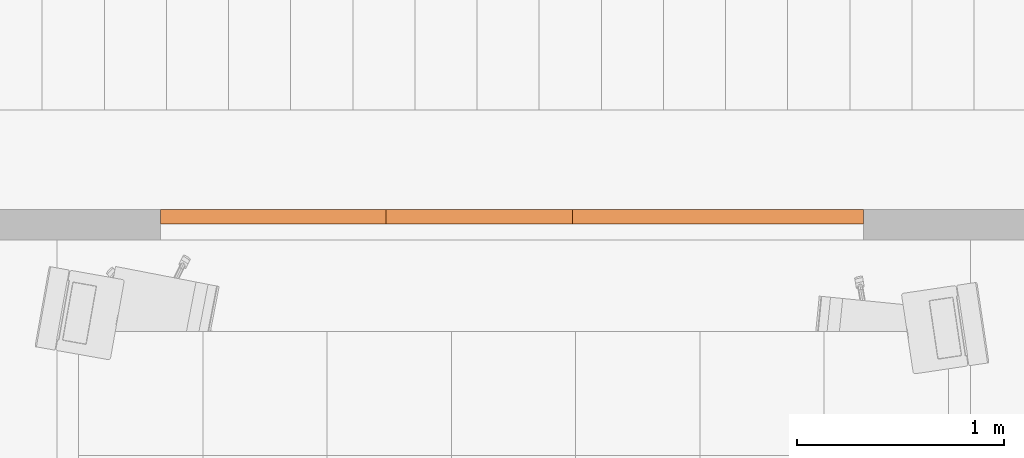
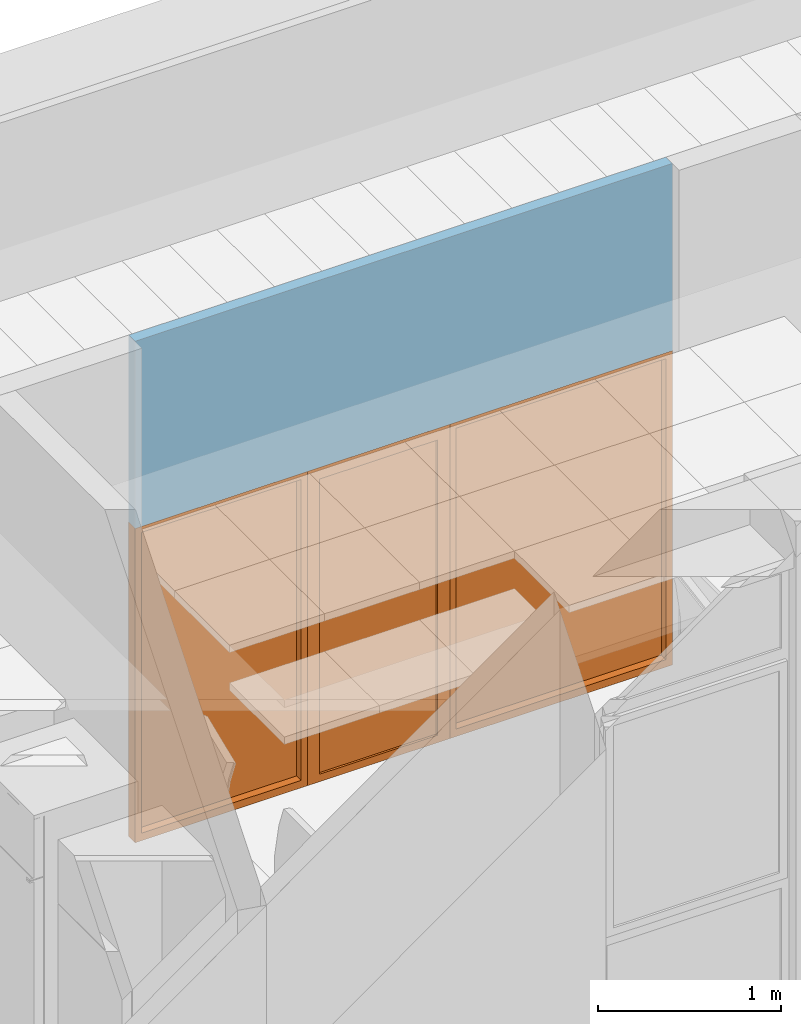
# One storey, part 56 of 68: 3 proxies, 3 openings, plus 1 element that does not belong to this part.
"""IFC2X3 building model written with IfcOpenShell, lengths in millimetres."""

from ifc_helpers import new_model, entity, si_unit, converted_unit, derived_unit, money_unit, direction, frame, origin_with_axes, origin_2d_with_axis, place, context, subcontext, project, spatial, polyline, rectangle, outline, extrude, open_shell, faceted_brep, surface_model, material, layer, layer_set, layer_usage, type_object, element, fill, save


model = new_model("IFC2X3")

# Units and contexts
model_context = context("Model", 3, precision=0.01, world=origin_with_axes(), true_north=direction((0.0, 1.0)))
body_context = subcontext(model_context, "Body", "Model", "MODEL_VIEW")
ifc_project = project(units=[si_unit("LENGTHUNIT", "METRE", prefix="MILLI"), si_unit("AREAUNIT", "SQUARE_METRE"), si_unit("VOLUMEUNIT", "CUBIC_METRE"), converted_unit("PLANEANGLEUNIT", "DEGREE", entity("IfcPlaneAngleMeasure", 0.0174532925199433), si_unit("PLANEANGLEUNIT", "RADIAN"), dimensions=[0, 0, 0, 0, 0, 0, 0]), money_unit("USD"), converted_unit("TIMEUNIT", "Year", entity("IfcTimeMeasure", 31557600.0), si_unit("TIMEUNIT", "SECOND"), dimensions=[0, 0, 1, 0, 0, 0, 0]), si_unit("MASSUNIT", "GRAM", prefix="KILO"), si_unit("THERMODYNAMICTEMPERATUREUNIT", "DEGREE_CELSIUS"), si_unit("LUMINOUSINTENSITYUNIT", "LUMEN"), si_unit("ENERGYUNIT", "JOULE", prefix="MEGA"), derived_unit("THERMALCONDUCTANCEUNIT", [(si_unit("POWERUNIT", "WATT"), 1), (si_unit("LENGTHUNIT", "METRE"), -1), (si_unit("THERMODYNAMICTEMPERATUREUNIT", "KELVIN"), -1)]), derived_unit("SPECIFICHEATCAPACITYUNIT", [(si_unit("ENERGYUNIT", "JOULE"), 1), (si_unit("MASSUNIT", "GRAM", prefix="KILO"), -1), (si_unit("THERMODYNAMICTEMPERATUREUNIT", "KELVIN"), -1)]), derived_unit("MASSDENSITYUNIT", [(si_unit("MASSUNIT", "GRAM", prefix="KILO"), 1), (si_unit("VOLUMEUNIT", "CUBIC_METRE"), -1)])], contexts=[model_context])

# Site, building, storey
site_placement = place(None, origin_with_axes())
site = spatial("IfcSite", under=ifc_project, at=site_placement, Name="Sitio", CompositionType="ELEMENT")
building_placement = place(site_placement, origin_with_axes())
building = spatial("IfcBuilding", under=site, at=building_placement, Name="Construcción", CompositionType="ELEMENT")
storey_placement = place(building_placement, origin_with_axes())
storey = spatial("IfcBuildingStorey", under=building, at=storey_placement, Name="PLANTA 1ª", CompositionType="ELEMENT", Elevation=0.0)

# Wall, openings, proxies
ifc_material_1 = material(Name="Panel de Yeso Laminado")
ifc_layer_1 = layer(ifc_material_1, 5.0, ventilated="UNKNOWN")
ifc_material_2 = material(Name="ARQ_AI033_Aillament_Llana_De_Roca")
ifc_layer_2 = layer(ifc_material_2, 60.0, ventilated="UNKNOWN")
ifc_layer_3 = layer(ifc_material_1, 5.0, ventilated="UNKNOWN")
ifc_layer_set = layer_set([ifc_layer_1, ifc_layer_2, ifc_layer_3], Name="CR- MAMPARA")
ifc_layer_usage = layer_usage(ifc_layer_set, "AXIS2", "POSITIVE", 0.0)
wall_type = type_object("IfcWallType", Name="CR- MAMPARA 70", PredefinedType="NOTDEFINED")
wall_placement = place(storey_placement, frame((-11795.8481802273, 1700.853055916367, 0.0), z_axis=(0.0, 0.0, 1.0), x_axis=(-1.0, 0.0, 0.0)))
wall = element("IfcWallStandardCase", 1, at=wall_placement, inside=storey, type_object=wall_type, material=ifc_layer_usage, Name="MS-214", context=body_context, shape_type="SweptSolid", body=[
    extrude(outline(polyline([(0.0, 0.0), (3394.033269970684, 0.0), (3394.033269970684, 70.00000000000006), (0.0, 70.00000000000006), (0.0, 0.0)])), origin_with_axes(), (0.0, 0.0, 1.0), 3350.0),
])
opening_1_placement = place(wall_placement, frame((702.7495741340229, 0.0, 0.0), z_axis=(0.0, 0.0, 1.0), x_axis=(1.0, 0.0, 0.0)))
opening_1 = element("IfcOpeningElement", 2, at=opening_1_placement, cuts=wall, Name="M-07", context=body_context, shape_type="SweptSolid", body=[
    extrude(rectangle(XDim=1405.499148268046, YDim=2100.0, at=origin_2d_with_axis()), frame((0.0, -69.99999999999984, 1050.0), z_axis=(0.0, 1.0, 0.0), x_axis=(-1.0, 0.0, 0.0)), (0.0, 0.0, 1.0), 210.0),
])
opening_2_placement = place(wall_placement, frame((2849.766209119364, 0.0, 0.0), z_axis=(0.0, 0.0, 1.0), x_axis=(1.0, 0.0, 0.0)))
opening_2 = element("IfcOpeningElement", 3, at=opening_2_placement, cuts=wall, Name="M-06", context=body_context, shape_type="SweptSolid", body=[
    extrude(rectangle(XDim=1088.534121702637, YDim=2100.0, at=origin_2d_with_axis()), frame((0.0, -69.99999999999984, 1050.0), z_axis=(0.0, 1.0, 0.0), x_axis=(-1.0, 0.0, 0.0)), (0.0, 0.0, 1.0), 210.0),
])
opening_3_placement = place(wall_placement, frame((1855.499148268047, 0.0, 0.0), z_axis=(0.0, 0.0, 1.0), x_axis=(1.0, 0.0, 0.0)))
opening_3 = element("IfcOpeningElement", 4, at=opening_3_placement, cuts=wall, Name="PM-3", context=body_context, shape_type="SweptSolid", body=[
    extrude(rectangle(XDim=899.9999999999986, YDim=2100.0, at=origin_2d_with_axis()), frame((0.0, -69.99999999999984, 1050.0), z_axis=(0.0, 1.0, 0.0), x_axis=(1.0, 0.0, 0.0)), (0.0, 0.0, 1.0), 210.0),
])
building_element_proxy_type_1 = type_object("IfcBuildingElementProxyType", Name="Ventana Escaparate 27", PredefinedType="NOTDEFINED")
proxy_1_placement = place(opening_1_placement, frame((702.7495741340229, 0.0, 0.0), z_axis=(0.0, 0.0, 1.0), x_axis=(-1.0, 0.0, 0.0)))
proxy_1 = element("IfcBuildingElementProxy", 5, at=proxy_1_placement, inside=storey, type_object=building_element_proxy_type_1, Name="M-07", context=body_context, shape_type="Brep", body=[
    faceted_brep([(0.0, 0.0, 2060.0), (0.0, 0.0, 50.0), (0.0, -69.99999999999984, 49.99999999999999), (0.0, -70.00000000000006, 2060.0), (39.99999999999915, 0.0, 2060.0), (39.99999999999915, 0.0, 50.0), (39.99999999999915, -69.99999999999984, 49.99999999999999), (39.99999999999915, -70.00000000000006, 2060.0)], [[[0, 1, 2, 3]], [[0, 4, 5, 1]], [[1, 5, 6, 2]], [[3, 2, 6, 7]], [[4, 0, 3, 7]], [[5, 4, 7, 6]]]),
    faceted_brep([(1405.499148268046, 0.0, 50.0), (1405.499148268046, 0.0, 2060.0), (1405.499148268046, -70.00000000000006, 2060.0), (1405.499148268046, -69.99999999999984, 49.99999999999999), (1365.499148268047, 0.0, 50.0), (1365.499148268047, 0.0, 2060.0), (1365.499148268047, -70.00000000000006, 2060.0), (1365.499148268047, -69.99999999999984, 49.99999999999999)], [[[0, 1, 2, 3]], [[0, 4, 5, 1]], [[1, 5, 6, 2]], [[3, 2, 6, 7]], [[4, 0, 3, 7]], [[5, 4, 7, 6]]]),
    faceted_brep([(1405.499148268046, 0.0, 2100.0), (0.0, 0.0, 2100.0), (0.0, -70.00000000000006, 2100.0), (1405.499148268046, -70.00000000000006, 2100.0), (1405.499148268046, 0.0, 2060.0), (1365.499148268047, 0.0, 2060.0), (39.99999999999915, 0.0, 2060.0), (0.0, 0.0, 2060.0), (0.0, -70.00000000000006, 2060.0), (39.99999999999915, -70.00000000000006, 2060.0), (1365.499148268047, -70.00000000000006, 2060.0), (1405.499148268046, -70.00000000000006, 2060.0)], [[[0, 1, 2, 3]], [[0, 4, 5, 6, 7, 1]], [[1, 7, 8, 2]], [[3, 2, 8, 9, 10, 11]], [[4, 0, 3, 11]], [[5, 4, 11, 10]], [[6, 5, 10, 9]], [[7, 6, 9, 8]]]),
    faceted_brep([(1405.499148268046, 0.0, 50.0), (1365.499148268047, 0.0, 50.0), (1365.499148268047, -69.99999999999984, 49.99999999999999), (1405.499148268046, -69.99999999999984, 49.99999999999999), (1405.499148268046, 0.0, 0.0), (0.0, 0.0, 0.0), (0.0, 0.0, 50.0), (39.99999999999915, 0.0, 50.0), (39.99999999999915, -69.99999999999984, 49.99999999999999), (0.0, -69.99999999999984, 49.99999999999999), (0.0, -69.99999999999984, 0.0), (1405.499148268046, -69.99999999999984, 0.0)], [[[0, 1, 2, 3]], [[0, 4, 5, 6, 7, 1]], [[1, 7, 8, 2]], [[3, 2, 8, 9, 10, 11]], [[4, 0, 3, 11]], [[5, 4, 11, 10]], [[6, 5, 10, 9]], [[7, 6, 9, 8]]]),
    faceted_brep([(39.99999999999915, -9.999999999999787, 50.0), (1365.499148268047, -10.00000000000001, 50.0), (1365.499148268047, -20.00000000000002, 50.0), (39.99999999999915, -19.99999999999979, 50.0), (39.99999999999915, -10.00000000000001, 2060.0), (1365.499148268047, -10.00000000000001, 2060.0), (1365.499148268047, -20.00000000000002, 2060.0), (39.99999999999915, -20.00000000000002, 2060.0)], [[[0, 1, 2, 3]], [[0, 4, 5, 1]], [[1, 5, 6, 2]], [[3, 2, 6, 7]], [[4, 0, 3, 7]], [[5, 4, 7, 6]]]),
])
fill(opening_1, proxy_1)
proxy_2_placement = place(opening_2_placement, frame((544.2670608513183, 0.0, 0.0), z_axis=(0.0, 0.0, 1.0), x_axis=(-1.0, 0.0, 0.0)))
proxy_2 = element("IfcBuildingElementProxy", 6, at=proxy_2_placement, inside=storey, type_object=building_element_proxy_type_1, Name="M-06", context=body_context, shape_type="Brep", body=[
    faceted_brep([(0.0, 0.0, 2060.0), (0.0, 0.0, 50.0), (0.0, -69.99999999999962, 49.99999999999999), (0.0, -69.99999999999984, 2060.0), (39.99999999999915, 0.0, 2060.0), (39.99999999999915, 0.0, 50.0), (39.99999999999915, -69.99999999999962, 49.99999999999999), (39.99999999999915, -69.99999999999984, 2060.0)], [[[0, 1, 2, 3]], [[0, 4, 5, 1]], [[1, 5, 6, 2]], [[3, 2, 6, 7]], [[4, 0, 3, 7]], [[5, 4, 7, 6]]]),
    faceted_brep([(1088.534121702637, 0.0, 50.0), (1088.534121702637, 0.0, 2060.0), (1088.534121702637, -70.00000000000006, 2060.0), (1088.534121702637, -69.99999999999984, 49.99999999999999), (1048.534121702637, 0.0, 50.0), (1048.534121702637, 0.0, 2060.0), (1048.534121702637, -70.00000000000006, 2060.0), (1048.534121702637, -69.99999999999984, 49.99999999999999)], [[[0, 1, 2, 3]], [[0, 4, 5, 1]], [[1, 5, 6, 2]], [[3, 2, 6, 7]], [[4, 0, 3, 7]], [[5, 4, 7, 6]]]),
    faceted_brep([(1088.534121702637, 0.0, 2100.0), (0.0, 0.0, 2100.0), (0.0, -69.99999999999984, 2100.0), (1088.534121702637, -70.00000000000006, 2100.0), (1088.534121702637, 0.0, 2060.0), (1048.534121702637, 0.0, 2060.0), (39.99999999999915, 0.0, 2060.0), (0.0, 0.0, 2060.0), (0.0, -69.99999999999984, 2060.0), (39.99999999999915, -69.99999999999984, 2060.0), (1048.534121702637, -70.00000000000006, 2060.0), (1088.534121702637, -70.00000000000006, 2060.0)], [[[0, 1, 2, 3]], [[0, 4, 5, 6, 7, 1]], [[1, 7, 8, 2]], [[3, 2, 8, 9, 10, 11]], [[4, 0, 3, 11]], [[5, 4, 11, 10]], [[6, 5, 10, 9]], [[7, 6, 9, 8]]]),
    faceted_brep([(1088.534121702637, 0.0, 50.0), (1048.534121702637, 0.0, 50.0), (1048.534121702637, -69.99999999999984, 49.99999999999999), (1088.534121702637, -69.99999999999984, 49.99999999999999), (1088.534121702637, 0.0, 0.0), (0.0, 0.0, 0.0), (0.0, 0.0, 50.0), (39.99999999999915, 0.0, 50.0), (39.99999999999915, -69.99999999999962, 49.99999999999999), (0.0, -69.99999999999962, 49.99999999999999), (0.0, -69.99999999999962, 0.0), (1088.534121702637, -69.99999999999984, 0.0)], [[[0, 1, 2, 3]], [[0, 4, 5, 6, 7, 1]], [[1, 7, 8, 2]], [[3, 2, 8, 9, 10, 11]], [[4, 0, 3, 11]], [[5, 4, 11, 10]], [[6, 5, 10, 9]], [[7, 6, 9, 8]]]),
    faceted_brep([(39.99999999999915, -9.999999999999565, 50.0), (1048.534121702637, -10.00000000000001, 50.0), (1048.534121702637, -20.00000000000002, 50.0), (39.99999999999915, -19.99999999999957, 50.0), (39.99999999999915, -9.999999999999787, 2060.0), (1048.534121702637, -10.00000000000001, 2060.0), (1048.534121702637, -20.00000000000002, 2060.0), (39.99999999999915, -19.99999999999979, 2060.0)], [[[0, 1, 2, 3]], [[0, 4, 5, 1]], [[1, 5, 6, 2]], [[3, 2, 6, 7]], [[4, 0, 3, 7]], [[5, 4, 7, 6]]]),
])
fill(opening_2, proxy_2)
building_element_proxy_type_2 = type_object("IfcBuildingElementProxyType", Name="Puerta 27", PredefinedType="NOTDEFINED")
proxy_3_placement = place(opening_3_placement, frame((-449.9999999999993, 0.0, 0.0), z_axis=(0.0, 0.0, 1.0), x_axis=(1.0, 0.0, 0.0)))
proxy_3 = element("IfcBuildingElementProxy", 7, at=proxy_3_placement, inside=storey, type_object=building_element_proxy_type_2, Name="PM-3", context=body_context, shape_type="SurfaceModel", body=[
    faceted_brep([(39.99999999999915, 30.00000000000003, 0.0), (39.99999999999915, 30.00000000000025, 2060.0), (39.99999999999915, 0.0, 2060.0), (39.99999999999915, 0.0, 0.0), (27.99999999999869, 30.00000000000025, 2060.0), (27.99999999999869, 30.00000000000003, 0.0), (27.99999999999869, 70.00000000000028, 2060.0), (0.0, 70.00000000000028, 2060.0), (0.0, 0.0, 2060.0), (0.0, 0.0, 0.0), (0.0, 70.00000000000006, 0.0), (27.99999999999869, 70.00000000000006, 0.0)], [[[0, 1, 2, 3]], [[4, 1, 0, 5]], [[4, 6, 7, 8, 2, 1]], [[3, 2, 8, 9]], [[5, 0, 3, 9, 10, 11]], [[6, 4, 5, 11]], [[6, 11, 10, 7]], [[10, 9, 8, 7]]]),
    faceted_brep([(871.9999999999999, 30.00000000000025, 2060.0), (859.9999999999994, 30.00000000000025, 2060.0), (859.9999999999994, 0.0, 2060.0), (899.9999999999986, 0.0, 2060.0), (899.9999999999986, 70.00000000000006, 2060.0), (871.9999999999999, 70.00000000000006, 2060.0), (871.9999999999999, 30.00000000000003, 0.0), (859.9999999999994, 30.00000000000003, 0.0), (859.9999999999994, 0.0, 0.0), (899.9999999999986, 0.0, 0.0), (899.9999999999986, 70.00000000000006, 0.0), (871.9999999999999, 70.00000000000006, 0.0)], [[[0, 1, 2, 3, 4, 5]], [[1, 0, 6, 7]], [[1, 7, 8, 2]], [[3, 2, 8, 9]], [[4, 3, 9, 10]], [[11, 5, 4, 10]], [[0, 5, 11, 6]], [[6, 11, 10, 9, 8, 7]]]),
    faceted_brep([(27.99999999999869, 70.00000000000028, 2072.0), (27.99999999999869, 70.00000000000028, 2060.0), (0.0, 70.00000000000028, 2060.0), (0.0, 70.00000000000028, 2100.0), (899.9999999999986, 70.00000000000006, 2100.0), (899.9999999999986, 70.00000000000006, 2060.0), (871.9999999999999, 70.00000000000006, 2060.0), (871.9999999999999, 70.00000000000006, 2072.0), (27.99999999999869, 30.00000000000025, 2072.0), (27.99999999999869, 30.00000000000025, 2060.0), (39.99999999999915, 30.00000000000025, 2060.0), (39.99999999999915, 0.0, 2060.0), (0.0, 0.0, 2060.0), (0.0, 0.0, 2100.0), (899.9999999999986, 0.0, 2100.0), (899.9999999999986, 0.0, 2060.0), (871.9999999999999, 30.00000000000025, 2060.0), (859.9999999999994, 0.0, 2060.0), (859.9999999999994, 30.00000000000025, 2060.0), (871.9999999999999, 30.00000000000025, 2072.0)], [[[0, 1, 2, 3, 4, 5, 6, 7]], [[1, 0, 8, 9]], [[9, 10, 11, 12, 2, 1]], [[2, 12, 13, 3]], [[3, 13, 14, 4]], [[4, 14, 15, 5]], [[16, 6, 5, 15, 17, 18]], [[7, 6, 16, 19]], [[0, 7, 19, 8]], [[16, 18, 10, 9, 8, 19]], [[10, 18, 17, 11]], [[17, 15, 14, 13, 12, 11]]]),
    faceted_brep([(871.9999999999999, 70.00000000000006, 49.99999999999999), (871.9999999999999, 30.00000000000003, 49.99999999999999), (821.9999999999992, 30.00000000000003, 49.99999999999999), (821.9999999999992, 70.00000000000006, 49.99999999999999), (871.9999999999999, 70.00000000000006, 2022.0), (871.9999999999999, 30.00000000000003, 2022.0), (821.9999999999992, 30.00000000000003, 2022.0), (821.9999999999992, 70.00000000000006, 2022.0)], [[[0, 1, 2, 3]], [[4, 5, 1, 0]], [[1, 5, 6, 2]], [[3, 2, 6, 7]], [[0, 3, 7, 4]], [[7, 6, 5, 4]]]),
    faceted_brep([(27.99999999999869, 70.00000000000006, 49.99999999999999), (27.99999999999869, 30.00000000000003, 49.99999999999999), (27.99999999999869, 30.00000000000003, 2022.0), (27.99999999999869, 70.00000000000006, 2022.0), (77.9999999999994, 70.00000000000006, 49.99999999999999), (77.9999999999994, 30.00000000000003, 49.99999999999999), (77.9999999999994, 30.00000000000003, 2022.0), (77.9999999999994, 70.00000000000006, 2022.0)], [[[0, 1, 2, 3]], [[4, 5, 1, 0]], [[1, 5, 6, 2]], [[3, 2, 6, 7]], [[0, 3, 7, 4]], [[7, 6, 5, 4]]]),
    faceted_brep([(871.9999999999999, 70.00000000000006, 0.0), (871.9999999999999, 30.00000000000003, 0.0), (27.99999999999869, 30.00000000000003, 0.0), (27.99999999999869, 70.00000000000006, 0.0), (871.9999999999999, 70.00000000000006, 49.99999999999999), (871.9999999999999, 30.00000000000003, 49.99999999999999), (821.9999999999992, 30.00000000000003, 49.99999999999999), (77.9999999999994, 30.00000000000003, 49.99999999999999), (27.99999999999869, 30.00000000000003, 49.99999999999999), (27.99999999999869, 70.00000000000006, 49.99999999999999), (77.9999999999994, 70.00000000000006, 49.99999999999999), (821.9999999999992, 70.00000000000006, 49.99999999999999)], [[[0, 1, 2, 3]], [[4, 5, 1, 0]], [[1, 5, 6, 7, 8, 2]], [[3, 2, 8, 9]], [[0, 3, 9, 10, 11, 4]], [[11, 6, 5, 4]], [[10, 7, 6, 11]], [[9, 8, 7, 10]]]),
    faceted_brep([(871.9999999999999, 70.00000000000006, 2072.0), (871.9999999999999, 30.00000000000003, 2072.0), (871.9999999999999, 30.00000000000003, 2022.0), (871.9999999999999, 70.00000000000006, 2022.0), (27.99999999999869, 70.00000000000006, 2072.0), (27.99999999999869, 30.00000000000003, 2072.0), (27.99999999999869, 30.00000000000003, 2022.0), (77.9999999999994, 30.00000000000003, 2022.0), (821.9999999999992, 30.00000000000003, 2022.0), (821.9999999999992, 70.00000000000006, 2022.0), (77.9999999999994, 70.00000000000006, 2022.0), (27.99999999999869, 70.00000000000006, 2022.0)], [[[0, 1, 2, 3]], [[4, 5, 1, 0]], [[1, 5, 6, 7, 8, 2]], [[3, 2, 8, 9]], [[0, 3, 9, 10, 11, 4]], [[11, 6, 5, 4]], [[10, 7, 6, 11]], [[9, 8, 7, 10]]]),
    surface_model("IfcShellBasedSurfaceModel", [(821.9999999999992, 56.00000000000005, 49.99999999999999), (77.9999999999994, 56.00000000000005, 49.99999999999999), (77.9999999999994, 56.00000000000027, 2022.0), (821.9999999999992, 56.00000000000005, 2022.0)], [open_shell([[[0, 1, 2, 3]]])]),
    surface_model("IfcShellBasedSurfaceModel", [(821.9999999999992, 44.00000000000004, 49.99999999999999), (821.9999999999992, 44.00000000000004, 2022.0), (77.9999999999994, 44.00000000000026, 2022.0), (77.9999999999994, 44.00000000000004, 49.99999999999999)], [open_shell([[[0, 1, 2, 3]]])]),
])
fill(opening_3, proxy_3)

save(model, "model.ifc")
